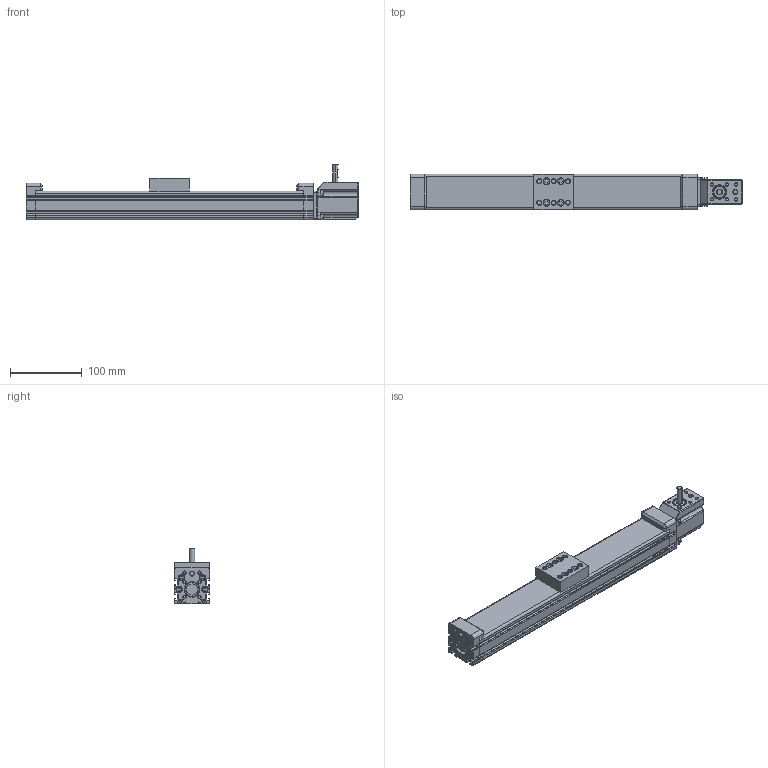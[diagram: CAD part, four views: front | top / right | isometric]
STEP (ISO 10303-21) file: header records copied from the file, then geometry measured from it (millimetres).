
FILE_DESCRIPTION (( 'STEP AP203' ), '1' );
FILE_NAME ('mag5040ss-300l.STEP', '2021-10-26T02:25:31', ( '' ), ( '' ), 'SwSTEP 2.0', 'SolidWorks 2020', '' );
FILE_SCHEMA (( 'CONFIG_CONTROL_DESIGN' ));
Length unit declared in the file: millimetre
Products named in the file (4): mag5040ss-300l; mag5040ss-300l_01; mag5040ss-300l_03; mag5040ss-300l_02
Assembly tree (3 placements, depth 2):
  mag5040ss-300l
    mag5040ss-300l_01
    mag5040ss-300l_02
    mag5040ss-300l_03
Bounding box: 463.5 x 50 x 77.5 mm (x, y, z)
Volume: 844014.1 mm3; surface area: 162670.4 mm2
Topology: 3 solids, 3 shells, 1318 faces, 3370 edges, 2160 vertices
Faces by surface type: plane 584, cylinder 528, cone 148, torus 44, sphere 10, bspline 4
Entity records: 40652 total; most frequent: DIRECTION 7298, CARTESIAN_POINT 7196, ORIENTED_EDGE 6724, EDGE_CURVE 3362, AXIS2_PLACEMENT_3D 2640, VERTEX_POINT 2160, LINE 2018, VECTOR 2018
